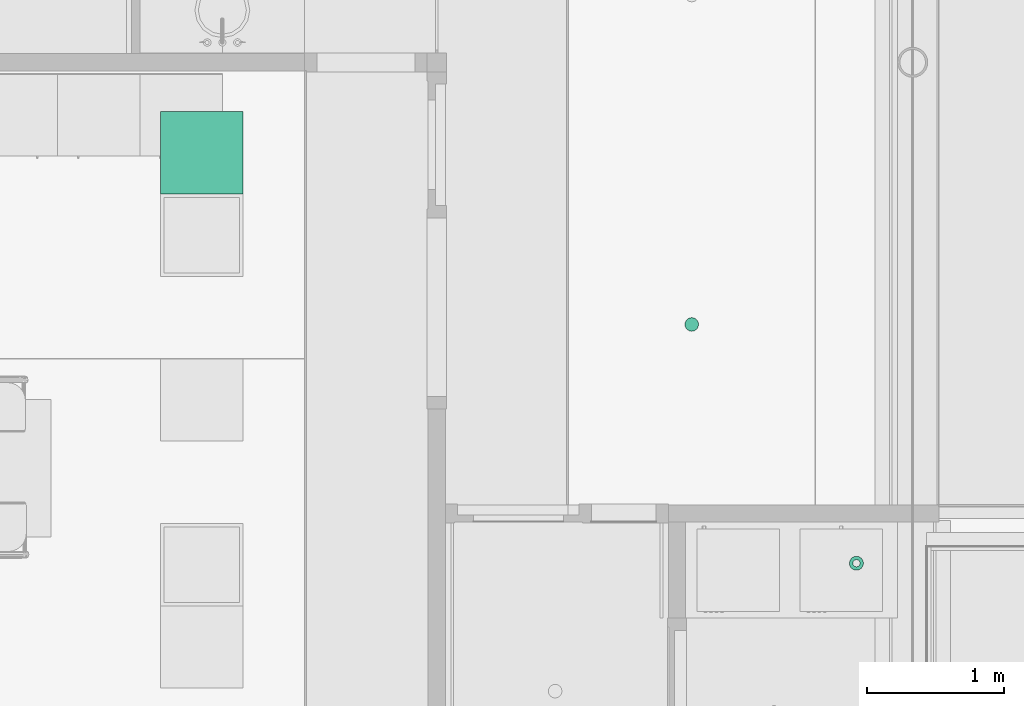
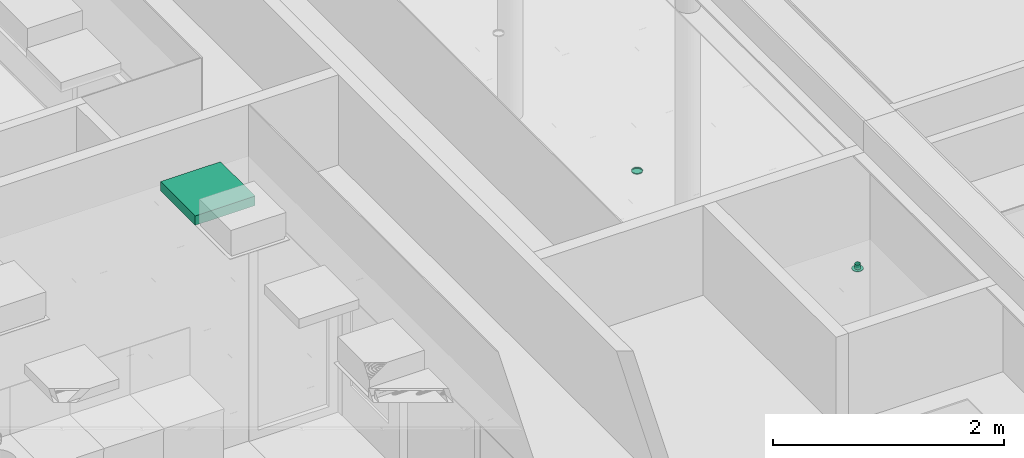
# One storey, part 216 of 347: 3 flow terminals.
"""IFC2X3 building model written with IfcOpenShell, lengths in millimetres."""

from ifc_helpers import new_model, entity, si_unit, converted_unit, derived_unit, money_unit, direction, frame, origin_with_axes, place, context, subcontext, project, spatial, open_shell, faceted_brep, surface_model, source, transform, mapped, type_object, type_shapes, element, save


model = new_model("IFC2X3")

# Units and contexts
model_context = context("Model", 3, precision=0.01, world=origin_with_axes(), true_north=direction((0.0, 1.0)))
plan_context = context("Plan", 3, precision=0.01, world=origin_with_axes(), true_north=direction((0.0, 1.0)))
body_context = subcontext(model_context, "Body", "Model", "MODEL_VIEW")
ifc_project = project(units=[si_unit("LENGTHUNIT", "METRE", prefix="MILLI"), si_unit("AREAUNIT", "SQUARE_METRE"), si_unit("VOLUMEUNIT", "CUBIC_METRE"), converted_unit("PLANEANGLEUNIT", "DEGREE", entity("IfcPlaneAngleMeasure", 0.0174532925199), si_unit("PLANEANGLEUNIT", "RADIAN"), dimensions=[0, 0, 0, 0, 0, 0, 0]), money_unit("EUR"), converted_unit("TIMEUNIT", "Year", entity("IfcTimeMeasure", 31556926.0), si_unit("TIMEUNIT", "SECOND"), dimensions=[0, 0, 1, 0, 0, 0, 0]), si_unit("MASSUNIT", "GRAM", prefix="KILO"), si_unit("THERMODYNAMICTEMPERATUREUNIT", "DEGREE_CELSIUS"), si_unit("LUMINOUSINTENSITYUNIT", "LUMEN"), si_unit("ENERGYUNIT", "JOULE", prefix="MEGA"), derived_unit("THERMALCONDUCTANCEUNIT", [(si_unit("POWERUNIT", "WATT"), 1), (si_unit("LENGTHUNIT", "METRE"), -1), (si_unit("THERMODYNAMICTEMPERATUREUNIT", "KELVIN"), -1)]), derived_unit("SPECIFICHEATCAPACITYUNIT", [(si_unit("ENERGYUNIT", "JOULE"), 1), (si_unit("MASSUNIT", "GRAM", prefix="KILO"), -1), (si_unit("THERMODYNAMICTEMPERATUREUNIT", "KELVIN"), -1)]), derived_unit("MASSDENSITYUNIT", [(si_unit("MASSUNIT", "GRAM", prefix="KILO"), 1), (si_unit("VOLUMEUNIT", "CUBIC_METRE"), -1)])], contexts=[model_context, plan_context])

# Site, building, storey
site_placement = place(None, origin_with_axes())
site = spatial("IfcSite", under=ifc_project, at=site_placement, Name="Site", CompositionType="ELEMENT")
building_placement = place(site_placement, origin_with_axes())
building = spatial("IfcBuilding", under=site, at=building_placement, Name="Naam gebouw", CompositionType="ELEMENT")
storey_placement = place(building_placement, origin_with_axes())
storey = spatial("IfcBuildingStorey", under=building, at=storey_placement, Name="begane grond", CompositionType="ELEMENT", Elevation=0.0)

# Flow terminals
lamp_type_1 = type_object("IfcLampType", Name="Spot plafond 01 25", PredefinedType="NOTDEFINED")
shared_shape_1 = source(origin_with_axes(), body_context, "Body", "SurfaceModel", [
    faceted_brep([(50.0, 0.0, -10.0), (46.1939766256, 19.1341716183, -10.0), (46.1939766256, 19.1341716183, 0.0), (50.0, 0.0, 0.0), (46.1939766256, -19.1341716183, -10.0), (35.3553390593, -35.3553390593, -10.0), (19.1341716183, -46.1939766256, -10.0), (0.0, -50.0, -10.0), (-19.1341716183, -46.1939766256, -10.0), (-35.3553390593, -35.3553390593, -10.0), (-46.1939766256, -19.1341716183, -10.0), (-50.0, 0.0, -10.0), (-46.1939766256, 19.1341716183, -10.0), (-35.3553390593, 35.3553390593, -10.0), (-19.1341716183, 46.1939766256, -10.0), (0.0, 50.0, -10.0), (19.1341716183, 46.1939766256, -10.0), (35.3553390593, 35.3553390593, -10.0), (40.0, 0.0, -10.0), (36.9551813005, 15.3073372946, -10.0), (28.2842712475, 28.2842712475, -10.0), (15.3073372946, 36.9551813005, -10.0), (0.0, 40.0, -10.0), (-15.3073372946, 36.9551813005, -10.0), (-28.2842712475, 28.2842712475, -10.0), (-36.9551813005, 15.3073372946, -10.0), (-40.0, 0.0, -10.0), (-36.9551813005, -15.3073372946, -10.0), (-28.2842712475, -28.2842712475, -10.0), (-15.3073372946, -36.9551813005, -10.0), (0.0, -40.0, -10.0), (15.3073372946, -36.9551813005, -10.0), (28.2842712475, -28.2842712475, -10.0), (36.9551813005, -15.3073372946, -10.0), (35.3553390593, 35.3553390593, 0.0), (19.1341716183, 46.1939766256, 0.0), (0.0, 50.0, 0.0), (-19.1341716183, 46.1939766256, 0.0), (-35.3553390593, 35.3553390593, 0.0), (-46.1939766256, 19.1341716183, 0.0), (-50.0, 0.0, 0.0), (-46.1939766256, -19.1341716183, 0.0), (-35.3553390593, -35.3553390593, 0.0), (-19.1341716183, -46.1939766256, 0.0), (0.0, -50.0, 0.0), (19.1341716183, -46.1939766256, 0.0), (35.3553390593, -35.3553390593, 0.0), (46.1939766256, -19.1341716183, 0.0), (40.0, 0.0, 0.0), (36.9551813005, -15.3073372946, 0.0), (28.2842712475, -28.2842712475, 0.0), (15.3073372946, -36.9551813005, 0.0), (0.0, -40.0, 0.0), (-15.3073372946, -36.9551813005, 0.0), (-28.2842712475, -28.2842712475, 0.0), (-36.9551813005, -15.3073372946, 0.0), (-40.0, 0.0, 0.0), (-36.9551813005, 15.3073372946, 0.0), (-28.2842712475, 28.2842712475, 0.0), (-15.3073372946, 36.9551813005, 0.0), (0.0, 40.0, 0.0), (15.3073372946, 36.9551813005, 0.0), (28.2842712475, 28.2842712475, 0.0), (36.9551813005, 15.3073372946, 0.0)], [[[0, 1, 2, 3]], [[0, 4, 5, 6, 7, 8, 9, 10, 11, 12, 13, 14, 15, 16, 17, 1], [18, 19, 20, 21, 22, 23, 24, 25, 26, 27, 28, 29, 30, 31, 32, 33]], [[1, 17, 34, 2]], [[3, 2, 34, 35, 36, 37, 38, 39, 40, 41, 42, 43, 44, 45, 46, 47], [48, 49, 50, 51, 52, 53, 54, 55, 56, 57, 58, 59, 60, 61, 62, 63]], [[4, 0, 3, 47]], [[5, 4, 47, 46]], [[6, 5, 46, 45]], [[7, 6, 45, 44]], [[8, 7, 44, 43]], [[9, 8, 43, 42]], [[10, 9, 42, 41]], [[11, 10, 41, 40]], [[12, 11, 40, 39]], [[13, 12, 39, 38]], [[14, 13, 38, 37]], [[15, 14, 37, 36]], [[16, 15, 36, 35]], [[17, 16, 35, 34]], [[19, 18, 48, 63]], [[20, 19, 63, 62]], [[21, 20, 62, 61]], [[22, 21, 61, 60]], [[23, 22, 60, 59]], [[24, 23, 59, 58]], [[25, 24, 58, 57]], [[26, 25, 57, 56]], [[27, 26, 56, 55]], [[28, 27, 55, 54]], [[29, 28, 54, 53]], [[30, 29, 53, 52]], [[31, 30, 52, 51]], [[32, 31, 51, 50]], [[33, 32, 50, 49]], [[18, 33, 49, 48]]]),
    surface_model("IfcShellBasedSurfaceModel", [(40.0, 0.0, -8.9), (36.9551813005, -15.3073372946, -8.9), (28.2842712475, -28.2842712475, -8.9), (15.3073372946, -36.9551813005, -8.9), (0.0, -40.0, -8.9), (-15.3073372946, -36.9551813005, -8.9), (-28.2842712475, -28.2842712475, -8.9), (-36.9551813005, -15.3073372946, -8.9), (-40.0, 0.0, -8.9), (-36.9551813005, 15.3073372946, -8.9), (-28.2842712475, 28.2842712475, -8.9), (-15.3073372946, 36.9551813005, -8.9), (0.0, 40.0, -8.9), (15.3073372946, 36.9551813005, -8.9), (28.2842712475, 28.2842712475, -8.9), (36.9551813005, 15.3073372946, -8.9)], [open_shell([[[0, 1, 2, 3, 4, 5, 6, 7, 8, 9, 10, 11, 12, 13, 14, 15]]])]),
])
type_shapes(lamp_type_1, [shared_shape_1])
flow_terminal_1_placement = place(storey_placement, frame((33995.0, 18140.0001323, 3000.0), z_axis=(0.0, 0.0, 1.0), x_axis=(1.0, 0.0, 0.0)))
element("IfcFlowTerminal", 1, at=flow_terminal_1_placement, inside=storey, type_object=lamp_type_1, Name="63_Lamp-x", ObjectType="Lamp", context=body_context, shape_type="MappedRepresentation", body=[
    mapped(shared_shape_1, transform((0.0, 0.0, 0.0))),
])
lamp_type_2 = type_object("IfcLampType", Name="TL plafond 25", PredefinedType="NOTDEFINED")
shared_shape_2 = source(origin_with_axes(), body_context, "Body", "SurfaceModel", [
    faceted_brep([(0.0, 0.0, -100.0), (600.0, 0.0, -100.0), (600.0, 0.0, 0.0), (0.0, 0.0, 0.0), (0.0, 600.0, -100.0), (600.0, 600.0, -100.0), (40.0, 40.0, -100.0), (560.0, 40.0, -100.0), (560.0, 560.0, -100.0), (40.0, 560.0, -100.0), (600.0, 600.0, 0.0), (0.0, 600.0, 0.0), (40.0, 40.0, 0.0), (40.0, 560.0, 0.0), (560.0, 560.0, 0.0), (560.0, 40.0, 0.0)], [[[0, 1, 2, 3]], [[0, 4, 5, 1], [6, 7, 8, 9]], [[1, 5, 10, 2]], [[3, 2, 10, 11], [12, 13, 14, 15]], [[4, 0, 3, 11]], [[5, 4, 11, 10]], [[7, 6, 12, 15]], [[8, 7, 15, 14]], [[9, 8, 14, 13]], [[6, 9, 13, 12]]]),
    faceted_brep([(40.0, 40.0, -16.3333333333), (560.0, 40.0, -16.3333333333), (560.0, 40.0, 0.0), (40.0, 40.0, 0.0), (40.0, 560.0, -16.3333333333), (560.0, 560.0, -16.3333333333), (560.0, 560.0, 0.0), (40.0, 560.0, 0.0)], [[[0, 1, 2, 3]], [[0, 4, 5, 1]], [[1, 5, 6, 2]], [[3, 2, 6, 7]], [[4, 0, 3, 7]], [[5, 4, 7, 6]]]),
    surface_model("IfcShellBasedSurfaceModel", [(559.0, 41.0, -100.0), (40.0, 41.0, -100.0), (40.0, 559.0, -100.0), (559.0, 559.0, -100.0)], [open_shell([[[0, 1, 2, 3]]])]),
    faceted_brep([(40.0, 40.0, -100.0), (560.0, 40.0, -100.0), (560.0, 40.0, -60.0), (40.0, 40.0, -60.0), (40.0, 560.0, -100.0), (560.0, 560.0, -100.0), (41.0, 41.0, -100.0), (559.0, 41.0, -100.0), (559.0, 559.0, -100.0), (41.0, 559.0, -100.0), (560.0, 560.0, -60.0), (40.0, 560.0, -60.0), (41.0, 41.0, -60.0), (41.0, 559.0, -60.0), (559.0, 559.0, -60.0), (559.0, 41.0, -60.0)], [[[0, 1, 2, 3]], [[0, 4, 5, 1], [6, 7, 8, 9]], [[1, 5, 10, 2]], [[3, 2, 10, 11], [12, 13, 14, 15]], [[4, 0, 3, 11]], [[5, 4, 11, 10]], [[7, 6, 12, 15]], [[8, 7, 15, 14]], [[9, 8, 14, 13]], [[6, 9, 13, 12]]]),
    faceted_brep([(40.0, 144.0, -48.3333333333), (40.0, 149.740251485, -47.191526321), (560.0, 149.740251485, -47.191526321), (560.0, 144.0, -48.3333333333), (40.0, 138.259748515, -47.191526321), (40.0, 133.393398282, -43.9399350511), (40.0, 130.141807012, -39.0735848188), (40.0, 129.0, -33.3333333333), (40.0, 130.141807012, -27.5930818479), (40.0, 133.393398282, -22.7267316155), (40.0, 138.259748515, -19.4751403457), (40.0, 144.0, -18.3333333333), (40.0, 149.740251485, -19.4751403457), (40.0, 154.606601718, -22.7267316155), (40.0, 157.858192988, -27.5930818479), (40.0, 159.0, -33.3333333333), (40.0, 157.858192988, -39.0735848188), (40.0, 154.606601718, -43.9399350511), (40.0, 144.0, -46.3333333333), (40.0, 148.974884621, -45.343767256), (40.0, 153.192388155, -42.5257214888), (40.0, 156.010433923, -38.3082179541), (40.0, 157.0, -33.3333333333), (40.0, 156.010433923, -28.3584487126), (40.0, 153.192388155, -24.1409451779), (40.0, 148.974884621, -21.3228994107), (40.0, 144.0, -20.3333333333), (40.0, 139.025115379, -21.3228994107), (40.0, 134.807611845, -24.1409451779), (40.0, 131.989566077, -28.3584487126), (40.0, 131.0, -33.3333333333), (40.0, 131.989566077, -38.3082179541), (40.0, 134.807611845, -42.5257214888), (40.0, 139.025115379, -45.343767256), (560.0, 154.606601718, -43.9399350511), (560.0, 157.858192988, -39.0735848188), (560.0, 159.0, -33.3333333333), (560.0, 157.858192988, -27.5930818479), (560.0, 154.606601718, -22.7267316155), (560.0, 149.740251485, -19.4751403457), (560.0, 144.0, -18.3333333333), (560.0, 138.259748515, -19.4751403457), (560.0, 133.393398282, -22.7267316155), (560.0, 130.141807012, -27.5930818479), (560.0, 129.0, -33.3333333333), (560.0, 130.141807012, -39.0735848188), (560.0, 133.393398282, -43.9399350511), (560.0, 138.259748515, -47.191526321), (560.0, 144.0, -46.3333333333), (560.0, 139.025115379, -45.343767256), (560.0, 134.807611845, -42.5257214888), (560.0, 131.989566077, -38.3082179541), (560.0, 131.0, -33.3333333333), (560.0, 131.989566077, -28.3584487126), (560.0, 134.807611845, -24.1409451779), (560.0, 139.025115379, -21.3228994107), (560.0, 144.0, -20.3333333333), (560.0, 148.974884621, -21.3228994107), (560.0, 153.192388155, -24.1409451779), (560.0, 156.010433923, -28.3584487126), (560.0, 157.0, -33.3333333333), (560.0, 156.010433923, -38.3082179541), (560.0, 153.192388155, -42.5257214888), (560.0, 148.974884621, -45.343767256)], [[[0, 1, 2, 3]], [[0, 4, 5, 6, 7, 8, 9, 10, 11, 12, 13, 14, 15, 16, 17, 1], [18, 19, 20, 21, 22, 23, 24, 25, 26, 27, 28, 29, 30, 31, 32, 33]], [[1, 17, 34, 2]], [[3, 2, 34, 35, 36, 37, 38, 39, 40, 41, 42, 43, 44, 45, 46, 47], [48, 49, 50, 51, 52, 53, 54, 55, 56, 57, 58, 59, 60, 61, 62, 63]], [[4, 0, 3, 47]], [[5, 4, 47, 46]], [[6, 5, 46, 45]], [[7, 6, 45, 44]], [[8, 7, 44, 43]], [[9, 8, 43, 42]], [[10, 9, 42, 41]], [[11, 10, 41, 40]], [[12, 11, 40, 39]], [[13, 12, 39, 38]], [[14, 13, 38, 37]], [[15, 14, 37, 36]], [[16, 15, 36, 35]], [[17, 16, 35, 34]], [[19, 18, 48, 63]], [[20, 19, 63, 62]], [[21, 20, 62, 61]], [[22, 21, 61, 60]], [[23, 22, 60, 59]], [[24, 23, 59, 58]], [[25, 24, 58, 57]], [[26, 25, 57, 56]], [[27, 26, 56, 55]], [[28, 27, 55, 54]], [[29, 28, 54, 53]], [[30, 29, 53, 52]], [[31, 30, 52, 51]], [[32, 31, 51, 50]], [[33, 32, 50, 49]], [[18, 33, 49, 48]]]),
    faceted_brep([(40.0, 248.0, -48.3333333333), (40.0, 253.740251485, -47.191526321), (560.0, 253.740251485, -47.191526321), (560.0, 248.0, -48.3333333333), (40.0, 242.259748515, -47.191526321), (40.0, 237.393398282, -43.9399350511), (40.0, 234.141807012, -39.0735848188), (40.0, 233.0, -33.3333333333), (40.0, 234.141807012, -27.5930818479), (40.0, 237.393398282, -22.7267316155), (40.0, 242.259748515, -19.4751403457), (40.0, 248.0, -18.3333333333), (40.0, 253.740251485, -19.4751403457), (40.0, 258.606601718, -22.7267316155), (40.0, 261.858192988, -27.5930818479), (40.0, 263.0, -33.3333333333), (40.0, 261.858192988, -39.0735848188), (40.0, 258.606601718, -43.9399350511), (40.0, 248.0, -46.3333333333), (40.0, 252.974884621, -45.343767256), (40.0, 257.192388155, -42.5257214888), (40.0, 260.010433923, -38.3082179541), (40.0, 261.0, -33.3333333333), (40.0, 260.010433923, -28.3584487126), (40.0, 257.192388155, -24.1409451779), (40.0, 252.974884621, -21.3228994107), (40.0, 248.0, -20.3333333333), (40.0, 243.025115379, -21.3228994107), (40.0, 238.807611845, -24.1409451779), (40.0, 235.989566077, -28.3584487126), (40.0, 235.0, -33.3333333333), (40.0, 235.989566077, -38.3082179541), (40.0, 238.807611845, -42.5257214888), (40.0, 243.025115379, -45.343767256), (560.0, 258.606601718, -43.9399350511), (560.0, 261.858192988, -39.0735848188), (560.0, 263.0, -33.3333333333), (560.0, 261.858192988, -27.5930818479), (560.0, 258.606601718, -22.7267316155), (560.0, 253.740251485, -19.4751403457), (560.0, 248.0, -18.3333333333), (560.0, 242.259748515, -19.4751403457), (560.0, 237.393398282, -22.7267316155), (560.0, 234.141807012, -27.5930818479), (560.0, 233.0, -33.3333333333), (560.0, 234.141807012, -39.0735848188), (560.0, 237.393398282, -43.9399350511), (560.0, 242.259748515, -47.191526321), (560.0, 248.0, -46.3333333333), (560.0, 243.025115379, -45.343767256), (560.0, 238.807611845, -42.5257214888), (560.0, 235.989566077, -38.3082179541), (560.0, 235.0, -33.3333333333), (560.0, 235.989566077, -28.3584487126), (560.0, 238.807611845, -24.1409451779), (560.0, 243.025115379, -21.3228994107), (560.0, 248.0, -20.3333333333), (560.0, 252.974884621, -21.3228994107), (560.0, 257.192388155, -24.1409451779), (560.0, 260.010433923, -28.3584487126), (560.0, 261.0, -33.3333333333), (560.0, 260.010433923, -38.3082179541), (560.0, 257.192388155, -42.5257214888), (560.0, 252.974884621, -45.343767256)], [[[0, 1, 2, 3]], [[0, 4, 5, 6, 7, 8, 9, 10, 11, 12, 13, 14, 15, 16, 17, 1], [18, 19, 20, 21, 22, 23, 24, 25, 26, 27, 28, 29, 30, 31, 32, 33]], [[1, 17, 34, 2]], [[3, 2, 34, 35, 36, 37, 38, 39, 40, 41, 42, 43, 44, 45, 46, 47], [48, 49, 50, 51, 52, 53, 54, 55, 56, 57, 58, 59, 60, 61, 62, 63]], [[4, 0, 3, 47]], [[5, 4, 47, 46]], [[6, 5, 46, 45]], [[7, 6, 45, 44]], [[8, 7, 44, 43]], [[9, 8, 43, 42]], [[10, 9, 42, 41]], [[11, 10, 41, 40]], [[12, 11, 40, 39]], [[13, 12, 39, 38]], [[14, 13, 38, 37]], [[15, 14, 37, 36]], [[16, 15, 36, 35]], [[17, 16, 35, 34]], [[19, 18, 48, 63]], [[20, 19, 63, 62]], [[21, 20, 62, 61]], [[22, 21, 61, 60]], [[23, 22, 60, 59]], [[24, 23, 59, 58]], [[25, 24, 58, 57]], [[26, 25, 57, 56]], [[27, 26, 56, 55]], [[28, 27, 55, 54]], [[29, 28, 54, 53]], [[30, 29, 53, 52]], [[31, 30, 52, 51]], [[32, 31, 51, 50]], [[33, 32, 50, 49]], [[18, 33, 49, 48]]]),
    faceted_brep([(40.0, 352.0, -48.3333333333), (40.0, 357.740251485, -47.191526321), (560.0, 357.740251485, -47.191526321), (560.0, 352.0, -48.3333333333), (40.0, 346.259748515, -47.191526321), (40.0, 341.393398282, -43.9399350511), (40.0, 338.141807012, -39.0735848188), (40.0, 337.0, -33.3333333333), (40.0, 338.141807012, -27.5930818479), (40.0, 341.393398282, -22.7267316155), (40.0, 346.259748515, -19.4751403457), (40.0, 352.0, -18.3333333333), (40.0, 357.740251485, -19.4751403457), (40.0, 362.606601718, -22.7267316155), (40.0, 365.858192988, -27.5930818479), (40.0, 367.0, -33.3333333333), (40.0, 365.858192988, -39.0735848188), (40.0, 362.606601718, -43.9399350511), (40.0, 352.0, -46.3333333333), (40.0, 356.974884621, -45.343767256), (40.0, 361.192388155, -42.5257214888), (40.0, 364.010433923, -38.3082179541), (40.0, 365.0, -33.3333333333), (40.0, 364.010433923, -28.3584487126), (40.0, 361.192388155, -24.1409451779), (40.0, 356.974884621, -21.3228994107), (40.0, 352.0, -20.3333333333), (40.0, 347.025115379, -21.3228994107), (40.0, 342.807611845, -24.1409451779), (40.0, 339.989566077, -28.3584487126), (40.0, 339.0, -33.3333333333), (40.0, 339.989566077, -38.3082179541), (40.0, 342.807611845, -42.5257214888), (40.0, 347.025115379, -45.343767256), (560.0, 362.606601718, -43.9399350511), (560.0, 365.858192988, -39.0735848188), (560.0, 367.0, -33.3333333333), (560.0, 365.858192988, -27.5930818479), (560.0, 362.606601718, -22.7267316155), (560.0, 357.740251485, -19.4751403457), (560.0, 352.0, -18.3333333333), (560.0, 346.259748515, -19.4751403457), (560.0, 341.393398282, -22.7267316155), (560.0, 338.141807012, -27.5930818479), (560.0, 337.0, -33.3333333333), (560.0, 338.141807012, -39.0735848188), (560.0, 341.393398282, -43.9399350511), (560.0, 346.259748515, -47.191526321), (560.0, 352.0, -46.3333333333), (560.0, 347.025115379, -45.343767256), (560.0, 342.807611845, -42.5257214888), (560.0, 339.989566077, -38.3082179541), (560.0, 339.0, -33.3333333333), (560.0, 339.989566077, -28.3584487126), (560.0, 342.807611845, -24.1409451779), (560.0, 347.025115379, -21.3228994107), (560.0, 352.0, -20.3333333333), (560.0, 356.974884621, -21.3228994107), (560.0, 361.192388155, -24.1409451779), (560.0, 364.010433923, -28.3584487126), (560.0, 365.0, -33.3333333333), (560.0, 364.010433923, -38.3082179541), (560.0, 361.192388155, -42.5257214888), (560.0, 356.974884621, -45.343767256)], [[[0, 1, 2, 3]], [[0, 4, 5, 6, 7, 8, 9, 10, 11, 12, 13, 14, 15, 16, 17, 1], [18, 19, 20, 21, 22, 23, 24, 25, 26, 27, 28, 29, 30, 31, 32, 33]], [[1, 17, 34, 2]], [[3, 2, 34, 35, 36, 37, 38, 39, 40, 41, 42, 43, 44, 45, 46, 47], [48, 49, 50, 51, 52, 53, 54, 55, 56, 57, 58, 59, 60, 61, 62, 63]], [[4, 0, 3, 47]], [[5, 4, 47, 46]], [[6, 5, 46, 45]], [[7, 6, 45, 44]], [[8, 7, 44, 43]], [[9, 8, 43, 42]], [[10, 9, 42, 41]], [[11, 10, 41, 40]], [[12, 11, 40, 39]], [[13, 12, 39, 38]], [[14, 13, 38, 37]], [[15, 14, 37, 36]], [[16, 15, 36, 35]], [[17, 16, 35, 34]], [[19, 18, 48, 63]], [[20, 19, 63, 62]], [[21, 20, 62, 61]], [[22, 21, 61, 60]], [[23, 22, 60, 59]], [[24, 23, 59, 58]], [[25, 24, 58, 57]], [[26, 25, 57, 56]], [[27, 26, 56, 55]], [[28, 27, 55, 54]], [[29, 28, 54, 53]], [[30, 29, 53, 52]], [[31, 30, 52, 51]], [[32, 31, 51, 50]], [[33, 32, 50, 49]], [[18, 33, 49, 48]]]),
    faceted_brep([(40.0, 456.0, -48.3333333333), (40.0, 461.740251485, -47.191526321), (560.0, 461.740251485, -47.191526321), (560.0, 456.0, -48.3333333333), (40.0, 450.259748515, -47.191526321), (40.0, 445.393398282, -43.9399350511), (40.0, 442.141807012, -39.0735848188), (40.0, 441.0, -33.3333333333), (40.0, 442.141807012, -27.5930818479), (40.0, 445.393398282, -22.7267316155), (40.0, 450.259748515, -19.4751403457), (40.0, 456.0, -18.3333333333), (40.0, 461.740251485, -19.4751403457), (40.0, 466.606601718, -22.7267316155), (40.0, 469.858192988, -27.5930818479), (40.0, 471.0, -33.3333333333), (40.0, 469.858192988, -39.0735848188), (40.0, 466.606601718, -43.9399350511), (40.0, 456.0, -46.3333333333), (40.0, 460.974884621, -45.343767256), (40.0, 465.192388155, -42.5257214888), (40.0, 468.010433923, -38.3082179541), (40.0, 469.0, -33.3333333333), (40.0, 468.010433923, -28.3584487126), (40.0, 465.192388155, -24.1409451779), (40.0, 460.974884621, -21.3228994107), (40.0, 456.0, -20.3333333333), (40.0, 451.025115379, -21.3228994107), (40.0, 446.807611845, -24.1409451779), (40.0, 443.989566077, -28.3584487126), (40.0, 443.0, -33.3333333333), (40.0, 443.989566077, -38.3082179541), (40.0, 446.807611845, -42.5257214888), (40.0, 451.025115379, -45.343767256), (560.0, 466.606601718, -43.9399350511), (560.0, 469.858192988, -39.0735848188), (560.0, 471.0, -33.3333333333), (560.0, 469.858192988, -27.5930818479), (560.0, 466.606601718, -22.7267316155), (560.0, 461.740251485, -19.4751403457), (560.0, 456.0, -18.3333333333), (560.0, 450.259748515, -19.4751403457), (560.0, 445.393398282, -22.7267316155), (560.0, 442.141807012, -27.5930818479), (560.0, 441.0, -33.3333333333), (560.0, 442.141807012, -39.0735848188), (560.0, 445.393398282, -43.9399350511), (560.0, 450.259748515, -47.191526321), (560.0, 456.0, -46.3333333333), (560.0, 451.025115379, -45.343767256), (560.0, 446.807611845, -42.5257214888), (560.0, 443.989566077, -38.3082179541), (560.0, 443.0, -33.3333333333), (560.0, 443.989566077, -28.3584487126), (560.0, 446.807611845, -24.1409451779), (560.0, 451.025115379, -21.3228994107), (560.0, 456.0, -20.3333333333), (560.0, 460.974884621, -21.3228994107), (560.0, 465.192388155, -24.1409451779), (560.0, 468.010433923, -28.3584487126), (560.0, 469.0, -33.3333333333), (560.0, 468.010433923, -38.3082179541), (560.0, 465.192388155, -42.5257214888), (560.0, 460.974884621, -45.343767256)], [[[0, 1, 2, 3]], [[0, 4, 5, 6, 7, 8, 9, 10, 11, 12, 13, 14, 15, 16, 17, 1], [18, 19, 20, 21, 22, 23, 24, 25, 26, 27, 28, 29, 30, 31, 32, 33]], [[1, 17, 34, 2]], [[3, 2, 34, 35, 36, 37, 38, 39, 40, 41, 42, 43, 44, 45, 46, 47], [48, 49, 50, 51, 52, 53, 54, 55, 56, 57, 58, 59, 60, 61, 62, 63]], [[4, 0, 3, 47]], [[5, 4, 47, 46]], [[6, 5, 46, 45]], [[7, 6, 45, 44]], [[8, 7, 44, 43]], [[9, 8, 43, 42]], [[10, 9, 42, 41]], [[11, 10, 41, 40]], [[12, 11, 40, 39]], [[13, 12, 39, 38]], [[14, 13, 38, 37]], [[15, 14, 37, 36]], [[16, 15, 36, 35]], [[17, 16, 35, 34]], [[19, 18, 48, 63]], [[20, 19, 63, 62]], [[21, 20, 62, 61]], [[22, 21, 61, 60]], [[23, 22, 60, 59]], [[24, 23, 59, 58]], [[25, 24, 58, 57]], [[26, 25, 57, 56]], [[27, 26, 56, 55]], [[28, 27, 55, 54]], [[29, 28, 54, 53]], [[30, 29, 53, 52]], [[31, 30, 52, 51]], [[32, 31, 51, 50]], [[33, 32, 50, 49]], [[18, 33, 49, 48]]]),
])
type_shapes(lamp_type_2, [shared_shape_2])
flow_terminal_2_placement = place(storey_placement, frame((30125.0, 19090.0000948, 3295.0), z_axis=(0.0, 0.0, 1.0), x_axis=(1.0, 0.0, 0.0)))
element("IfcFlowTerminal", 2, at=flow_terminal_2_placement, inside=storey, type_object=lamp_type_2, Name="63_Lamp-x", ObjectType="Lamp", context=body_context, shape_type="MappedRepresentation", body=[
    mapped(shared_shape_2, transform((0.0, 0.0, 0.0))),
])
air_terminal_type = type_object("IfcAirTerminalType", Name="Rooster plafond rond 25", PredefinedType="GRILLE")
shared_shape_3 = source(origin_with_axes(), body_context, "Body", "SurfaceModel", [
    faceted_brep([(51.0, 0.0, -5.0), (49.2622171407, 13.1997713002, -5.0), (49.2622171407, 13.1997713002, 0.0), (51.0, 0.0, 0.0), (49.2622171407, -13.1997713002, -5.0), (44.167295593, -25.5, -5.0), (36.0624458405, -36.0624458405, -5.0), (25.5, -44.167295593, -5.0), (13.1997713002, -49.2622171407, -5.0), (0.0, -51.0, -5.0), (-13.1997713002, -49.2622171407, -5.0), (-25.5, -44.167295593, -5.0), (-36.0624458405, -36.0624458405, -5.0), (-44.167295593, -25.5, -5.0), (-49.2622171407, -13.1997713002, -5.0), (-51.0, 0.0, -5.0), (-49.2622171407, 13.1997713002, -5.0), (-44.167295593, 25.5, -5.0), (-36.0624458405, 36.0624458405, -5.0), (-25.5, 44.167295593, -5.0), (-13.1997713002, 49.2622171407, -5.0), (0.0, 51.0, -5.0), (13.1997713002, 49.2622171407, -5.0), (25.5, 44.167295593, -5.0), (36.0624458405, 36.0624458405, -5.0), (44.167295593, 25.5, -5.0), (26.0, 0.0, -5.0), (25.1140714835, 6.72929517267, -5.0), (22.5166604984, 13.0, -5.0), (18.3847763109, 18.3847763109, -5.0), (13.0, 22.5166604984, -5.0), (6.72929517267, 25.1140714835, -5.0), (0.0, 26.0, -5.0), (-6.72929517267, 25.1140714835, -5.0), (-13.0, 22.5166604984, -5.0), (-18.3847763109, 18.3847763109, -5.0), (-22.5166604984, 13.0, -5.0), (-25.1140714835, 6.72929517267, -5.0), (-26.0, 0.0, -5.0), (-25.1140714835, -6.72929517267, -5.0), (-22.5166604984, -13.0, -5.0), (-18.3847763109, -18.3847763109, -5.0), (-13.0, -22.5166604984, -5.0), (-6.72929517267, -25.1140714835, -5.0), (0.0, -26.0, -5.0), (6.72929517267, -25.1140714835, -5.0), (13.0, -22.5166604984, -5.0), (18.3847763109, -18.3847763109, -5.0), (22.5166604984, -13.0, -5.0), (25.1140714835, -6.72929517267, -5.0), (44.167295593, 25.5, 0.0), (36.0624458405, 36.0624458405, 0.0), (25.5, 44.167295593, 0.0), (13.1997713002, 49.2622171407, 0.0), (0.0, 51.0, 0.0), (-13.1997713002, 49.2622171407, 0.0), (-25.5, 44.167295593, 0.0), (-36.0624458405, 36.0624458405, 0.0), (-44.167295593, 25.5, 0.0), (-49.2622171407, 13.1997713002, 0.0), (-51.0, 0.0, 0.0), (-49.2622171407, -13.1997713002, 0.0), (-44.167295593, -25.5, 0.0), (-36.0624458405, -36.0624458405, 0.0), (-25.5, -44.167295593, 0.0), (-13.1997713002, -49.2622171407, 0.0), (0.0, -51.0, 0.0), (13.1997713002, -49.2622171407, 0.0), (25.5, -44.167295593, 0.0), (36.0624458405, -36.0624458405, 0.0), (44.167295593, -25.5, 0.0), (49.2622171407, -13.1997713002, 0.0), (26.0, 0.0, 0.0), (25.1140714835, -6.72929517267, 0.0), (22.5166604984, -13.0, 0.0), (18.3847763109, -18.3847763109, 0.0), (13.0, -22.5166604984, 0.0), (6.72929517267, -25.1140714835, 0.0), (0.0, -26.0, 0.0), (-6.72929517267, -25.1140714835, 0.0), (-13.0, -22.5166604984, 0.0), (-18.3847763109, -18.3847763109, 0.0), (-22.5166604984, -13.0, 0.0), (-25.1140714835, -6.72929517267, 0.0), (-26.0, 0.0, 0.0), (-25.1140714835, 6.72929517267, 0.0), (-22.5166604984, 13.0, 0.0), (-18.3847763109, 18.3847763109, 0.0), (-13.0, 22.5166604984, 0.0), (-6.72929517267, 25.1140714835, 0.0), (0.0, 26.0, 0.0), (6.72929517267, 25.1140714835, 0.0), (13.0, 22.5166604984, 0.0), (18.3847763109, 18.3847763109, 0.0), (22.5166604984, 13.0, 0.0), (25.1140714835, 6.72929517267, 0.0)], [[[0, 1, 2, 3]], [[0, 4, 5, 6, 7, 8, 9, 10, 11, 12, 13, 14, 15, 16, 17, 18, 19, 20, 21, 22, 23, 24, 25, 1], [26, 27, 28, 29, 30, 31, 32, 33, 34, 35, 36, 37, 38, 39, 40, 41, 42, 43, 44, 45, 46, 47, 48, 49]], [[1, 25, 50, 2]], [[3, 2, 50, 51, 52, 53, 54, 55, 56, 57, 58, 59, 60, 61, 62, 63, 64, 65, 66, 67, 68, 69, 70, 71], [72, 73, 74, 75, 76, 77, 78, 79, 80, 81, 82, 83, 84, 85, 86, 87, 88, 89, 90, 91, 92, 93, 94, 95]], [[4, 0, 3, 71]], [[5, 4, 71, 70]], [[6, 5, 70, 69]], [[7, 6, 69, 68]], [[8, 7, 68, 67]], [[9, 8, 67, 66]], [[10, 9, 66, 65]], [[11, 10, 65, 64]], [[12, 11, 64, 63]], [[13, 12, 63, 62]], [[14, 13, 62, 61]], [[15, 14, 61, 60]], [[16, 15, 60, 59]], [[17, 16, 59, 58]], [[18, 17, 58, 57]], [[19, 18, 57, 56]], [[20, 19, 56, 55]], [[21, 20, 55, 54]], [[22, 21, 54, 53]], [[23, 22, 53, 52]], [[24, 23, 52, 51]], [[25, 24, 51, 50]], [[27, 26, 72, 95]], [[28, 27, 95, 94]], [[29, 28, 94, 93]], [[30, 29, 93, 92]], [[31, 30, 92, 91]], [[32, 31, 91, 90]], [[33, 32, 90, 89]], [[34, 33, 89, 88]], [[35, 34, 88, 87]], [[36, 35, 87, 86]], [[37, 36, 86, 85]], [[38, 37, 85, 84]], [[39, 38, 84, 83]], [[40, 39, 83, 82]], [[41, 40, 82, 81]], [[42, 41, 81, 80]], [[43, 42, 80, 79]], [[44, 43, 79, 78]], [[45, 44, 78, 77]], [[46, 45, 77, 76]], [[47, 46, 76, 75]], [[48, 47, 75, 74]], [[49, 48, 74, 73]], [[26, 49, 73, 72]]]),
    surface_model("IfcShellBasedSurfaceModel", [(0.0, -26.0, 0.0), (6.72929517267, -25.1140714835, 0.0), (6.72929517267, -25.1140714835, 50.0), (0.0, -26.0, 50.0), (13.0, -22.5166604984, 0.0), (13.0, -22.5166604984, 50.0), (-6.72929517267, -25.1140714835, 0.0), (-6.72929517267, -25.1140714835, 50.0), (18.3847763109, -18.3847763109, 0.0), (18.3847763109, -18.3847763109, 50.0), (-13.0, -22.5166604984, 0.0), (-13.0, -22.5166604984, 50.0), (22.5166604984, -13.0, 0.0), (22.5166604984, -13.0, 50.0), (-18.3847763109, -18.3847763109, 0.0), (-18.3847763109, -18.3847763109, 50.0), (25.1140714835, -6.72929517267, 0.0), (25.1140714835, -6.72929517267, 50.0), (-22.5166604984, -13.0, 0.0), (-22.5166604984, -13.0, 50.0), (26.0, 0.0, 0.0), (26.0, 0.0, 50.0), (-25.1140714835, -6.72929517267, 0.0), (-25.1140714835, -6.72929517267, 50.0), (25.1140714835, 6.72929517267, 0.0), (25.1140714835, 6.72929517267, 50.0), (-26.0, 0.0, 0.0), (-26.0, 0.0, 50.0), (22.5166604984, 13.0, 0.0), (22.5166604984, 13.0, 50.0), (-25.1140714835, 6.72929517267, 0.0), (-25.1140714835, 6.72929517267, 50.0), (18.3847763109, 18.3847763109, 0.0), (18.3847763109, 18.3847763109, 50.0), (-22.5166604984, 13.0, 0.0), (-22.5166604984, 13.0, 50.0), (13.0, 22.5166604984, 0.0), (13.0, 22.5166604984, 50.0), (-18.3847763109, 18.3847763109, 0.0), (-18.3847763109, 18.3847763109, 50.0), (6.72929517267, 25.1140714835, 0.0), (6.72929517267, 25.1140714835, 50.0), (-13.0, 22.5166604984, 0.0), (-13.0, 22.5166604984, 50.0), (0.0, 26.0, 0.0), (0.0, 26.0, 50.0), (-6.72929517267, 25.1140714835, 0.0), (-6.72929517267, 25.1140714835, 50.0)], [open_shell([[[0, 1, 2, 3]], [[1, 4, 5, 2]], [[6, 0, 3, 7]], [[4, 8, 9, 5]], [[10, 6, 7, 11]], [[8, 12, 13, 9]], [[14, 10, 11, 15]], [[12, 16, 17, 13]], [[18, 14, 15, 19]], [[16, 20, 21, 17]], [[22, 18, 19, 23]], [[20, 24, 25, 21]], [[26, 22, 23, 27]], [[24, 28, 29, 25]], [[30, 26, 27, 31]], [[28, 32, 33, 29]], [[34, 30, 31, 35]], [[32, 36, 37, 33]], [[38, 34, 35, 39]], [[36, 40, 41, 37]], [[42, 38, 39, 43]], [[40, 44, 45, 41]], [[46, 42, 43, 47]], [[44, 46, 47, 45]]])]),
])
type_shapes(air_terminal_type, [shared_shape_3])
flow_terminal_3_placement = place(storey_placement, frame((35195.0, 16400.0, 2600.0), z_axis=(0.0, 0.0, 1.0), x_axis=(1.0, 0.0, 0.0)))
element("IfcFlowTerminal", 3, at=flow_terminal_3_placement, inside=storey, type_object=air_terminal_type, Name="57_78 garderobe", context=body_context, shape_type="MappedRepresentation", body=[
    mapped(shared_shape_3, transform((0.0, 0.0, 0.0))),
])

save(model, "model.ifc")
